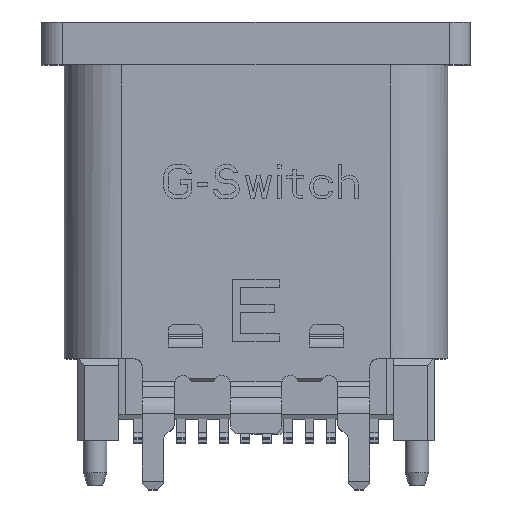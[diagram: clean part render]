
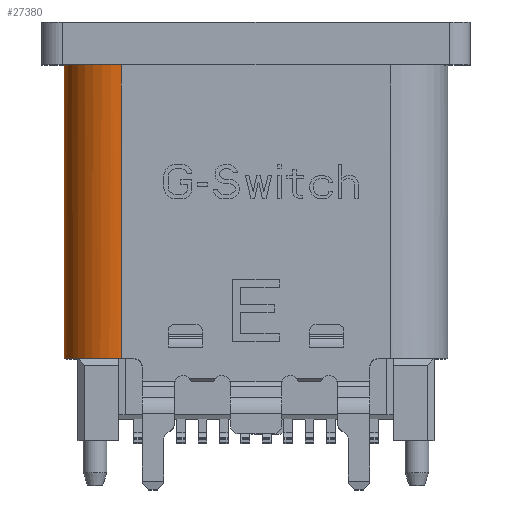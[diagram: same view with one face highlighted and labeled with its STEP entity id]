
A CAD part, top view. The second image highlights one B-rep face of the part: STEP entity #27380.
In plain terms, the highlighted cylindrical face has radius 1.33 mm (diameter 2.66 mm), a partial arc.
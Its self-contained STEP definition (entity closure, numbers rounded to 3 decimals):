
#646=CARTESIAN_POINT('',(-8.5,-3.14,-0.25));
#647=DIRECTION('',(1.,0.,0.));
#648=DIRECTION('',(0.,-0.759,-0.651));
#649=AXIS2_PLACEMENT_3D('',#646,#647,#648);
#651=DIRECTION('',(1.,0.,0.));
#652=VECTOR('',#651,6.85);
#653=CARTESIAN_POINT('',(-8.5,-4.47,-0.25));
#654=LINE('',#653,#652);
#655=DIRECTION('',(-1.,0.,0.));
#656=VECTOR('',#655,6.85);
#657=CARTESIAN_POINT('',(-1.65,-3.14,-1.58));
#658=LINE('',#657,#656);
#668=CARTESIAN_POINT('',(-8.5,-3.14,-0.25));
#669=DIRECTION('',(1.,0.,0.));
#670=DIRECTION('',(0.,-1.,0.));
#671=AXIS2_PLACEMENT_3D('',#668,#669,#670);
#2692=CARTESIAN_POINT('',(-8.5,-3.14,-0.25));
#2693=DIRECTION('',(1.,0.,0.));
#2694=DIRECTION('',(0.,-0.049,-0.999));
#2695=AXIS2_PLACEMENT_3D('',#2692,#2693,#2694);
#10698=CARTESIAN_POINT('',(-1.65,-3.14,-0.25));
#10699=DIRECTION('',(-1.,0.,0.));
#10700=DIRECTION('',(0.,0.,-1.));
#10701=AXIS2_PLACEMENT_3D('',#10698,#10699,#10700);
#21834=CARTESIAN_POINT('',(-8.5,-4.15,
-1.115));
#21836=VERTEX_POINT('',#21834);
#21993=CARTESIAN_POINT('',(-8.5,-4.47,-0.25));
#21994=VERTEX_POINT('',#21993);
#22005=CARTESIAN_POINT('',(-8.5,-3.205,
-1.578));
#22006=VERTEX_POINT('',#22005);
#22007=CARTESIAN_POINT('',(-8.5,-3.14,-1.58));
#22008=VERTEX_POINT('',#22007);
#22277=CARTESIAN_POINT('',(-1.65,-4.47,-0.25));
#22278=VERTEX_POINT('',#22277);
#22279=CARTESIAN_POINT('',(-1.65,-3.14,-1.58));
#22280=VERTEX_POINT('',#22279);
#27362=CARTESIAN_POINT('',(0.,-3.14,-0.25));
#27363=DIRECTION('',(1.,0.,0.));
#27364=DIRECTION('',(0.,-1.,0.));
#27365=AXIS2_PLACEMENT_3D('',#27362,#27363,#27364);
#27366=CYLINDRICAL_SURFACE('',#27365,1.33);
#27367=ORIENTED_EDGE('',*,*,#27352,.F.);
#27369=ORIENTED_EDGE('',*,*,#27368,.F.);
#27371=ORIENTED_EDGE('',*,*,#27370,.T.);
#27373=ORIENTED_EDGE('',*,*,#27372,.F.);
#27375=ORIENTED_EDGE('',*,*,#27374,.T.);
#27377=ORIENTED_EDGE('',*,*,#27376,.F.);
#27378=EDGE_LOOP('',(#27367,#27369,#27371,#27373,#27375,#27377));
#27379=FACE_OUTER_BOUND('',#27378,.F.);
#650=CIRCLE('',#649,1.33);
#672=CIRCLE('',#671,1.33);
#2696=CIRCLE('',#2695,1.33);
#10702=CIRCLE('',#10701,1.33);
#27352=EDGE_CURVE('',#21836,#22006,#650,.T.);
#27368=EDGE_CURVE('',#21994,#21836,#672,.T.);
#27370=EDGE_CURVE('',#21994,#22278,#654,.T.);
#27372=EDGE_CURVE('',#22280,#22278,#10702,.T.);
#27374=EDGE_CURVE('',#22280,#22008,#658,.T.);
#27376=EDGE_CURVE('',#22006,#22008,#2696,.T.);
#27380=ADVANCED_FACE('',(#27379),#27366,.T.);
